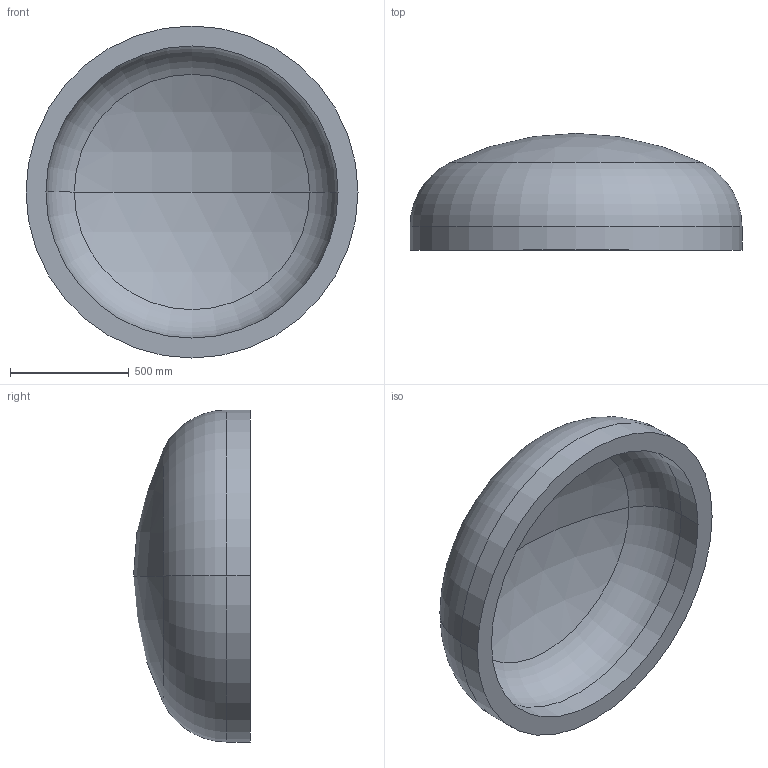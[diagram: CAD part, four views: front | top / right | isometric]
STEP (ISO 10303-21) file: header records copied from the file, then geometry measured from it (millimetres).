
FILE_DESCRIPTION (( 'STEP AP203' ), '1' );
FILE_NAME ('DIN 28013 Korbbogenform_-_Boden DIN 28013 - 1400 x 100 - I - s=84.step', '2016-07-01T10:26:26', ( '' ), ( '' ), 'SwSTEP 2.0', 'SolidWorks 2013', '' );
FILE_SCHEMA (( 'CONFIG_CONTROL_DESIGN' ));
Length unit declared in the file: millimetre
Products named in the file (1): DIN 28013 Korbbogenform_-_Boden DIN 28013 - 1400 x 100 - I - s=84
Bounding box: 1400 x 492.69 x 1400 mm (x, y, z)
Volume: 200536309.9 mm3; surface area: 5136735.2 mm2
Topology: 1 solids, 1 shells, 13 faces, 24 edges, 14 vertices
Faces by surface type: torus 4, cylinder 4, sphere 4, plane 1
Entity records: 407 total; most frequent: DIRECTION 72, CARTESIAN_POINT 52, ORIENTED_EDGE 48, AXIS2_PLACEMENT_3D 34, EDGE_CURVE 24, CIRCLE 20, VERTEX_POINT 14, EDGE_LOOP 14
